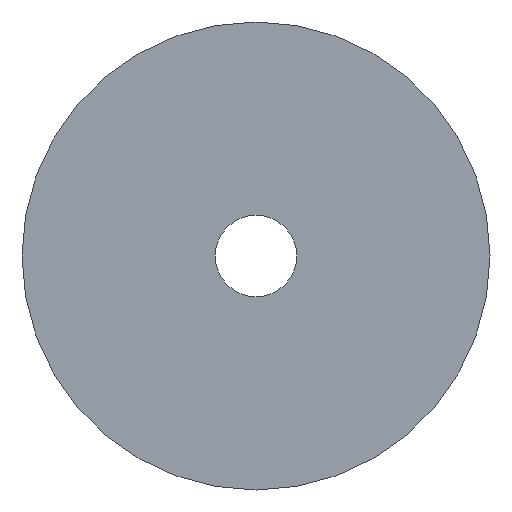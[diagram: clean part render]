
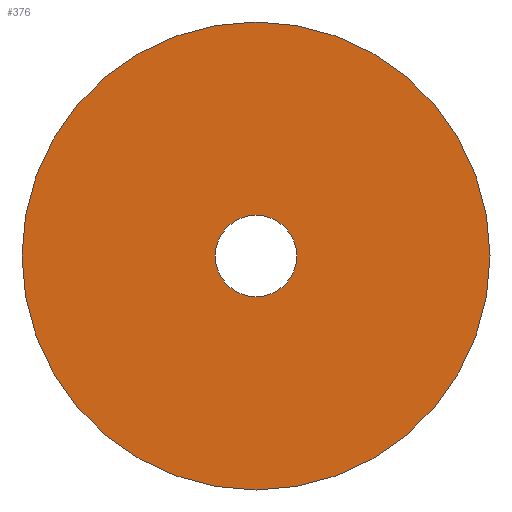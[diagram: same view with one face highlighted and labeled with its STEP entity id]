
A CAD part, front view. The second image highlights one B-rep face of the part: STEP entity #376.
In plain terms, the highlighted planar face has unit normal (0, -1, 0).
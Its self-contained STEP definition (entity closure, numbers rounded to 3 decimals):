
#1 = ORIENTED_EDGE ( 'NONE', *, *, #359, .T. ) ;
#8 = VERTEX_POINT ( 'NONE', #96 ) ;
#14 = ORIENTED_EDGE ( 'NONE', *, *, #22, .F. ) ;
#22 = EDGE_CURVE ( 'NONE', #372, #8, #139, .T. ) ;
#23 = EDGE_CURVE ( 'NONE', #138, #338, #144, .T. ) ;
#65 = FACE_BOUND ( 'NONE', #363, .T. ) ;
#66 = FACE_OUTER_BOUND ( 'NONE', #328, .T. ) ;
#67 = PLANE ( 'NONE',  #68 ) ;
#68 = AXIS2_PLACEMENT_3D ( 'NONE', #69, #70, #71 ) ;
#69 = CARTESIAN_POINT ( 'NONE',  ( -11.5, 0., 0. ) ) ;
#70 = DIRECTION ( 'NONE',  ( 0., -1., 0. ) ) ;
#71 = DIRECTION ( 'NONE',  ( 0., 0., -1. ) ) ;
#96 = CARTESIAN_POINT ( 'NONE',  ( 0., 0., 11.5 ) ) ;
#97 = CARTESIAN_POINT ( 'NONE',  ( 0., 0., -2. ) ) ;
#98 = CIRCLE ( 'NONE', #103, 11.5 ) ;
#101 = ORIENTED_EDGE ( 'NONE', *, *, #23, .T. ) ;
#103 = AXIS2_PLACEMENT_3D ( 'NONE', #104, #105, #106 ) ;
#104 = CARTESIAN_POINT ( 'NONE',  ( 0., 0., 0. ) ) ;
#105 = DIRECTION ( 'NONE',  ( 0., 1., 0. ) ) ;
#106 = DIRECTION ( 'NONE',  ( 0., 0., 1. ) ) ;
#138 = VERTEX_POINT ( 'NONE', #238 ) ;
#139 = CIRCLE ( 'NONE', #140, 11.5 ) ;
#140 = AXIS2_PLACEMENT_3D ( 'NONE', #141, #142, #143 ) ;
#141 = CARTESIAN_POINT ( 'NONE',  ( 0., 0., 0. ) ) ;
#142 = DIRECTION ( 'NONE',  ( 0., 1., 0. ) ) ;
#143 = DIRECTION ( 'NONE',  ( 0., 0., 1. ) ) ;
#144 = CIRCLE ( 'NONE', #145, 2. ) ;
#145 = AXIS2_PLACEMENT_3D ( 'NONE', #146, #147, #148 ) ;
#146 = CARTESIAN_POINT ( 'NONE',  ( 0., 0., 0. ) ) ;
#147 = DIRECTION ( 'NONE',  ( 0., 1., 0. ) ) ;
#148 = DIRECTION ( 'NONE',  ( 0., 0., 1. ) ) ;
#179 = CIRCLE ( 'NONE', #180, 2. ) ;
#180 = AXIS2_PLACEMENT_3D ( 'NONE', #181, #182, #183 ) ;
#181 = CARTESIAN_POINT ( 'NONE',  ( 0., 0., 0. ) ) ;
#182 = DIRECTION ( 'NONE',  ( 0., 1., 0. ) ) ;
#183 = DIRECTION ( 'NONE',  ( 0., 0., 1. ) ) ;
#238 = CARTESIAN_POINT ( 'NONE',  ( 0., 0., 2. ) ) ;
#239 = CARTESIAN_POINT ( 'NONE',  ( 0., 0., -11.5 ) ) ;
#328 = EDGE_LOOP ( 'NONE', ( #14, #348 ) ) ;
#338 = VERTEX_POINT ( 'NONE', #97 ) ;
#348 = ORIENTED_EDGE ( 'NONE', *, *, #380, .F. ) ;
#359 = EDGE_CURVE ( 'NONE', #338, #138, #179, .T. ) ;
#363 = EDGE_LOOP ( 'NONE', ( #101, #1 ) ) ;
#372 = VERTEX_POINT ( 'NONE', #239 ) ;
#376 = ADVANCED_FACE ( 'NONE', ( #65, #66 ), #67, .T. ) ;
#380 = EDGE_CURVE ( 'NONE', #8, #372, #98, .T. ) ;
